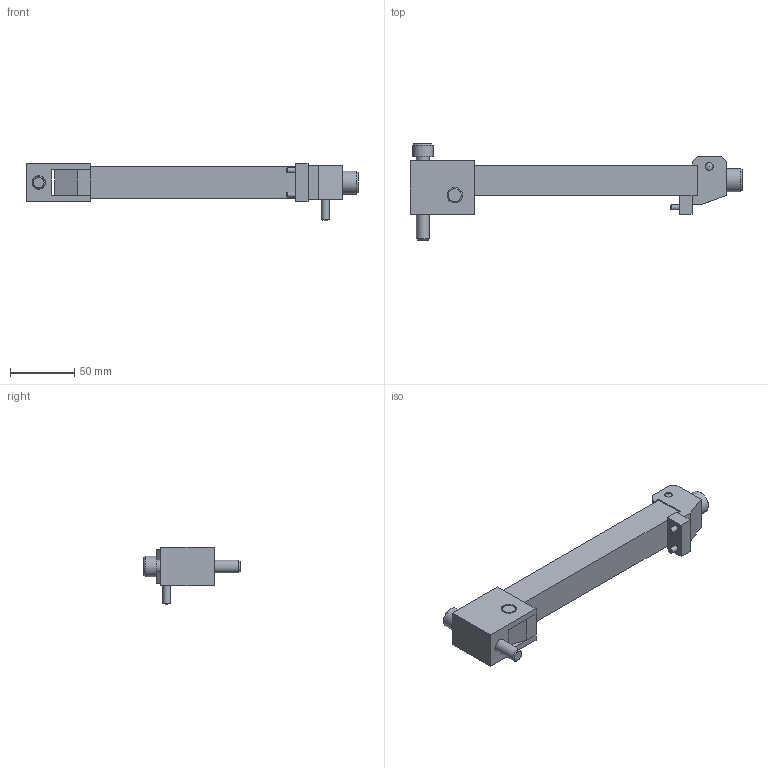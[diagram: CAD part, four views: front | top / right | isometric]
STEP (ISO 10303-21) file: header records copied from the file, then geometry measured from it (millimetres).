
FILE_DESCRIPTION(/* description */ ('STEP AP214'),/* implementation_level */ '2;1');
FILE_NAME(/* name */ 'KL12170',/* time_stamp */ '2024-12-19T07:59:29+01:00',/* author */ ('License CC BY-ND 4.0'),/* organization */ ('CADENAS'),/* preprocessor_version */ 'ST-DEVELOPER v19.3',/* originating_system */ 'PARTsolutions',/* authorisation */ ' ');
FILE_SCHEMA (('AUTOMOTIVE_DESIGN {1 0 10303 214 3 1 1}'));
Length unit declared in the file: millimetre
Products named in the file (11): KL12170; KL121701; KL121702; KL121703; KL121704; KL121705; KL121706; KL121707; KL121708; KL121709; KL1217010
Assembly tree (11 placements, depth 2):
  KL12170
    KL121701
    KL121702
    KL121703
    KL121704
    KL121705
    KL121706
    KL121707
    KL121708
    KL121709  x2
    KL1217010
Bounding box: 259 x 75 x 44.7 mm (x, y, z)
Volume: 187215.7 mm3; surface area: 54447 mm2
Topology: 11 solids, 11 shells, 135 faces, 300 edges, 196 vertices
Faces by surface type: plane 95, cylinder 23, cone 15, sphere 2
Full cylindrical faces by diameter (mm): 4 x2, 4.134 x1, 4.3 x2, 5 x1, 6 x2, 7 x2, 8 x2, 10 x1, 10.106 x1, 10.5 x1, 12 x5, 13 x1, 16 x1, 18 x1
Entity records: 3416 total; most frequent: CARTESIAN_POINT 546, DIRECTION 544, ORIENTED_EDGE 452, EDGE_CURVE 226, AXIS2_PLACEMENT_3D 186, FACE_BOUND 183, EDGE_LOOP 182, LINE 172
